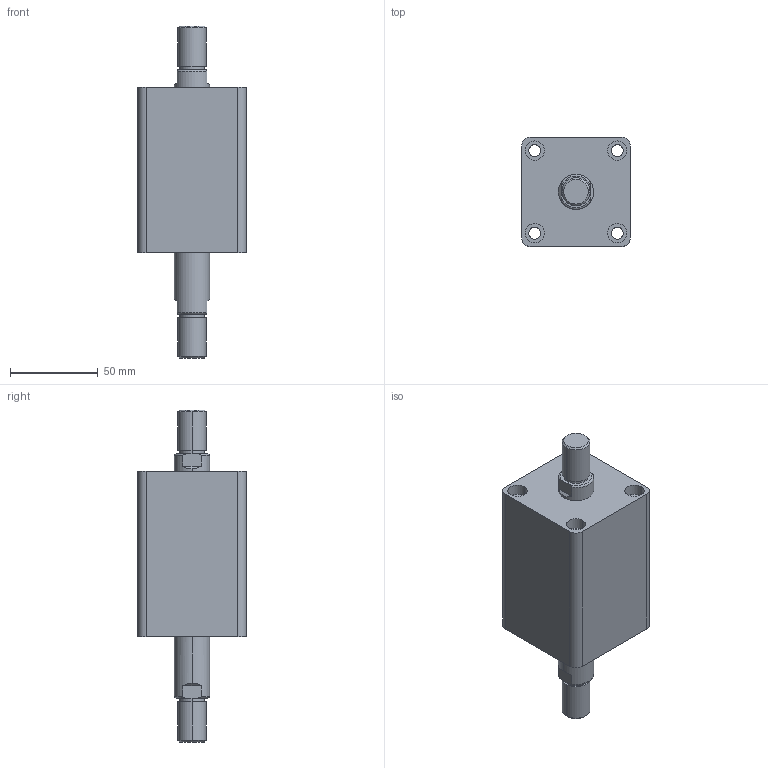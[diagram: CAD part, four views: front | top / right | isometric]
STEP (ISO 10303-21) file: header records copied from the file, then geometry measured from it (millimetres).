
FILE_DESCRIPTION (( 'STEP AP203' ), '1' );
FILE_NAME ('HTB-SW32-25W.STEP', '2019-10-07T08:51:44', ( '微软用户' ), ( '微软中国' ), 'SwSTEP 2.0', 'SolidWorks 2012', '' );
FILE_SCHEMA (( 'CONFIG_CONTROL_DESIGN' ));
Length unit declared in the file: millimetre
Products named in the file (3): HTB-SW32-25W; HTB-SW32-25W活塞杆; HTB-SW32-25掛极
Assembly tree (2 placements, depth 2):
  HTB-SW32-25W
    HTB-SW32-25掛极
    HTB-SW32-25W活塞杆
Bounding box: 62 x 62 x 189 mm (x, y, z)
Volume: 351767.5 mm3; surface area: 60661 mm2
Topology: 2 solids, 2 shells, 108 faces, 240 edges, 156 vertices
Faces by surface type: cylinder 52, plane 36, torus 12, cone 8
Entity records: 3449 total; most frequent: CARTESIAN_POINT 629, DIRECTION 586, ORIENTED_EDGE 480, AXIS2_PLACEMENT_3D 249, EDGE_CURVE 240, VERTEX_POINT 156, EDGE_LOOP 138, CIRCLE 136
